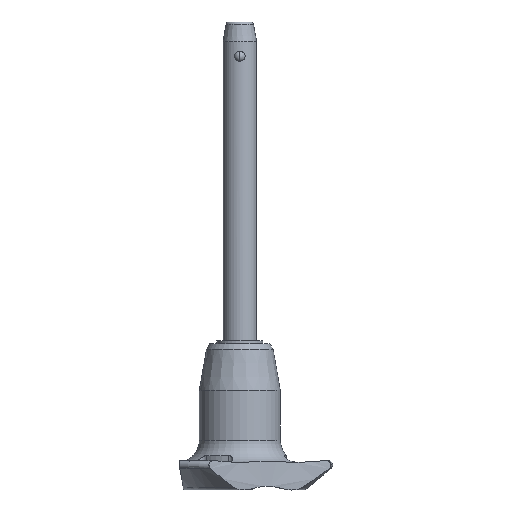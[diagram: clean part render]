
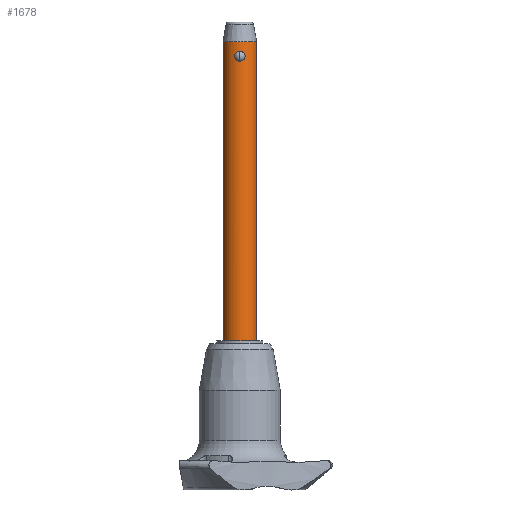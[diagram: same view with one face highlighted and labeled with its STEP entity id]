
A CAD part, front view. The second image highlights one B-rep face of the part: STEP entity #1678.
In plain terms, the highlighted cylindrical face has radius 3 mm (diameter 6 mm), a partial arc.
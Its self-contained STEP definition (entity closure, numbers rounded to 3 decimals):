
#105 = CARTESIAN_POINT ( 'NONE',  ( -0.812, -2.889, 0.414 ) ) ;
#187 = DIRECTION ( 'NONE',  ( 0., 0., 1. ) ) ;
#194 = CARTESIAN_POINT ( 'NONE',  ( 0., -3., 0. ) ) ;
#195 = CARTESIAN_POINT ( 'NONE',  ( -3., 0., -50. ) ) ;
#210 = VERTEX_POINT ( 'NONE', #1653 ) ;
#265 = VECTOR ( 'NONE', #187, 1000. ) ;
#278 = CARTESIAN_POINT ( 'NONE',  ( -0.739, -2.909, 1.414 ) ) ;
#291 = CARTESIAN_POINT ( 'NONE',  ( -0.12, -3., 1.732 ) ) ;
#298 = CARTESIAN_POINT ( 'NONE',  ( 3., 0., 3.5 ) ) ;
#325 = CARTESIAN_POINT ( 'NONE',  ( 0., 0., -50. ) ) ;
#385 = EDGE_CURVE ( 'NONE', #210, #2139, #1990, .T. ) ;
#394 = CIRCLE ( 'NONE', #2031, 3. ) ;
#408 = CARTESIAN_POINT ( 'NONE',  ( 0.738, -2.909, 0.317 ) ) ;
#498 = ORIENTED_EDGE ( 'NONE', *, *, #2105, .T. ) ;
#516 = DIRECTION ( 'NONE',  ( 0., 0., -1. ) ) ;
#556 = CARTESIAN_POINT ( 'NONE',  ( 0.74, -2.909, 1.414 ) ) ;
#728 = CYLINDRICAL_SURFACE ( 'NONE', #751, 3. ) ;
#734 = CARTESIAN_POINT ( 'NONE',  ( -0.46, -2.967, 0.101 ) ) ;
#751 = AXIS2_PLACEMENT_3D ( 'NONE', #325, #1159, #967 ) ;
#822 = CARTESIAN_POINT ( 'NONE',  ( 0.563, -2.948, 0.162 ) ) ;
#870 = EDGE_CURVE ( 'NONE', #1393, #1435, #2627, .T. ) ;
#922 = CARTESIAN_POINT ( 'NONE',  ( -0.238, -2.993, 1.712 ) ) ;
#932 = CARTESIAN_POINT ( 'NONE',  ( 0.238, -2.993, 1.712 ) ) ;
#945 = CARTESIAN_POINT ( 'NONE',  ( 0.911, -2.859, 1.103 ) ) ;
#967 = DIRECTION ( 'NONE',  ( 1., 0., 0. ) ) ;
#1049 = ORIENTED_EDGE ( 'NONE', *, *, #1368, .T. ) ;
#1080 = CARTESIAN_POINT ( 'NONE',  ( 0., -3., 0. ) ) ;
#1092 = CARTESIAN_POINT ( 'NONE',  ( -0.563, -2.948, 1.57 ) ) ;
#1145 = CARTESIAN_POINT ( 'NONE',  ( 0.461, -2.966, 1.63 ) ) ;
#1159 = DIRECTION ( 'NONE',  ( 0., 0., 1. ) ) ;
#1177 = DIRECTION ( 'NONE',  ( 0., 0., -1. ) ) ;
#1238 = LINE ( 'NONE', #2522, #265 ) ;
#1246 = CARTESIAN_POINT ( 'NONE',  ( 0.811, -2.889, 0.412 ) ) ;
#1346 = CARTESIAN_POINT ( 'NONE',  ( -0.937, -2.85, 0.749 ) ) ;
#1358 = CARTESIAN_POINT ( 'NONE',  ( -0.238, -2.993, 0.021 ) ) ;
#1366 = AXIS2_PLACEMENT_3D ( 'NONE', #1770, #516, #1977 ) ;
#1368 = EDGE_CURVE ( 'NONE', #210, #1690, #1238, .T. ) ;
#1393 = VERTEX_POINT ( 'NONE', #1639 ) ;
#1414 = CARTESIAN_POINT ( 'NONE',  ( 0., 0., 3.5 ) ) ;
#1435 = VERTEX_POINT ( 'NONE', #1683 ) ;
#1440 = EDGE_LOOP ( 'NONE', ( #2541, #1836, #1049, #498 ) ) ;
#1447 = ORIENTED_EDGE ( 'NONE', *, *, #1597, .F. ) ;
#1456 = CARTESIAN_POINT ( 'NONE',  ( 0.118, -3., 0. ) ) ;
#1597 = EDGE_CURVE ( 'NONE', #1435, #1393, #1947, .T. ) ;
#1639 = CARTESIAN_POINT ( 'NONE',  ( 0., -3., 1.732 ) ) ;
#1653 = CARTESIAN_POINT ( 'NONE',  ( 3., 0., -50. ) ) ;
#1677 = CARTESIAN_POINT ( 'NONE',  ( 0.937, -2.85, 0.744 ) ) ;
#1678 = ADVANCED_FACE ( 'NONE', ( #2009, #2223 ), #728, .T. ) ;
#1683 = CARTESIAN_POINT ( 'NONE',  ( 0., -3., 0. ) ) ;
#1690 = VERTEX_POINT ( 'NONE', #298 ) ;
#1702 = EDGE_LOOP ( 'NONE', ( #2269, #1447 ) ) ;
#1770 = CARTESIAN_POINT ( 'NONE',  ( 0., 0., -50. ) ) ;
#1778 = CARTESIAN_POINT ( 'NONE',  ( -0.74, -2.909, 0.318 ) ) ;
#1784 = CARTESIAN_POINT ( 'NONE',  ( 0.812, -2.888, 1.317 ) ) ;
#1795 = CARTESIAN_POINT ( 'NONE',  ( 0.564, -2.948, 1.57 ) ) ;
#1836 = ORIENTED_EDGE ( 'NONE', *, *, #385, .F. ) ;
#1869 = CARTESIAN_POINT ( 'NONE',  ( 0.238, -2.993, 0.021 ) ) ;
#1932 = DIRECTION ( 'NONE',  ( 0., 0., 1. ) ) ;
#1939 = CARTESIAN_POINT ( 'NONE',  ( -0.91, -2.859, 1.105 ) ) ;
#1947 = B_SPLINE_CURVE_WITH_KNOTS ( 'NONE', 3,
 ( #194, #1456, #1869, #2707, #822, #408, #1246, #2091, #1677, #2297, #945, #1784, #556, #1795, #1145, #932, #2625, #1978 ),
 .UNSPECIFIED., .F., .F.,
 ( 4, 2, 2, 2, 2, 2, 2, 2, 4 ),
 ( 0.003, 0.003, 0.004, 0.004, 0.004, 0.005, 0.005, 0.005, 0.006 ),
 .UNSPECIFIED. ) ;
#1969 = CARTESIAN_POINT ( 'NONE',  ( -0.811, -2.889, 1.319 ) ) ;
#1977 = DIRECTION ( 'NONE',  ( 1., 0., 0. ) ) ;
#1978 = CARTESIAN_POINT ( 'NONE',  ( 0., -3., 1.732 ) ) ;
#1986 = CARTESIAN_POINT ( 'NONE',  ( -0.461, -2.967, 1.63 ) ) ;
#1990 = CIRCLE ( 'NONE', #1366, 3. ) ;
#2009 = FACE_OUTER_BOUND ( 'NONE', #1440, .T. ) ;
#2031 = AXIS2_PLACEMENT_3D ( 'NONE', #1414, #1177, #2045 ) ;
#2045 = DIRECTION ( 'NONE',  ( 1., 0., 0. ) ) ;
#2091 = CARTESIAN_POINT ( 'NONE',  ( 0.91, -2.859, 0.626 ) ) ;
#2105 = EDGE_CURVE ( 'NONE', #1690, #2556, #394, .T. ) ;
#2139 = VERTEX_POINT ( 'NONE', #195 ) ;
#2158 = CARTESIAN_POINT ( 'NONE',  ( 0., -3., 1.732 ) ) ;
#2190 = CARTESIAN_POINT ( 'NONE',  ( -0.911, -2.859, 0.63 ) ) ;
#2202 = CARTESIAN_POINT ( 'NONE',  ( -0.118, -3., 0. ) ) ;
#2223 = FACE_BOUND ( 'NONE', #1702, .T. ) ;
#2269 = ORIENTED_EDGE ( 'NONE', *, *, #870, .F. ) ;
#2297 = CARTESIAN_POINT ( 'NONE',  ( 0.937, -2.85, 0.985 ) ) ;
#2357 = LINE ( 'NONE', #2536, #2557 ) ;
#2399 = CARTESIAN_POINT ( 'NONE',  ( -0.937, -2.85, 0.986 ) ) ;
#2419 = CARTESIAN_POINT ( 'NONE',  ( -3., 0., 3.5 ) ) ;
#2460 = EDGE_CURVE ( 'NONE', #2139, #2556, #2357, .T. ) ;
#2522 = CARTESIAN_POINT ( 'NONE',  ( 3., 0., -50. ) ) ;
#2536 = CARTESIAN_POINT ( 'NONE',  ( -3., 0., -50. ) ) ;
#2541 = ORIENTED_EDGE ( 'NONE', *, *, #2460, .F. ) ;
#2556 = VERTEX_POINT ( 'NONE', #2419 ) ;
#2557 = VECTOR ( 'NONE', #1932, 1000. ) ;
#2620 = CARTESIAN_POINT ( 'NONE',  ( -0.564, -2.948, 0.162 ) ) ;
#2625 = CARTESIAN_POINT ( 'NONE',  ( 0.12, -3., 1.732 ) ) ;
#2627 = B_SPLINE_CURVE_WITH_KNOTS ( 'NONE', 3,
 ( #2158, #291, #922, #1986, #1092, #278, #1969, #1939, #2399, #1346, #2190, #105, #1778, #2620, #734, #1358, #2202, #1080 ),
 .UNSPECIFIED., .F., .F.,
 ( 4, 2, 2, 2, 2, 2, 2, 2, 4 ),
 ( 0., 0., 0.001, 0.001, 0.001, 0.002, 0.002, 0.002, 0.003 ),
 .UNSPECIFIED. ) ;
#2707 = CARTESIAN_POINT ( 'NONE',  ( 0.459, -2.967, 0.101 ) ) ;
